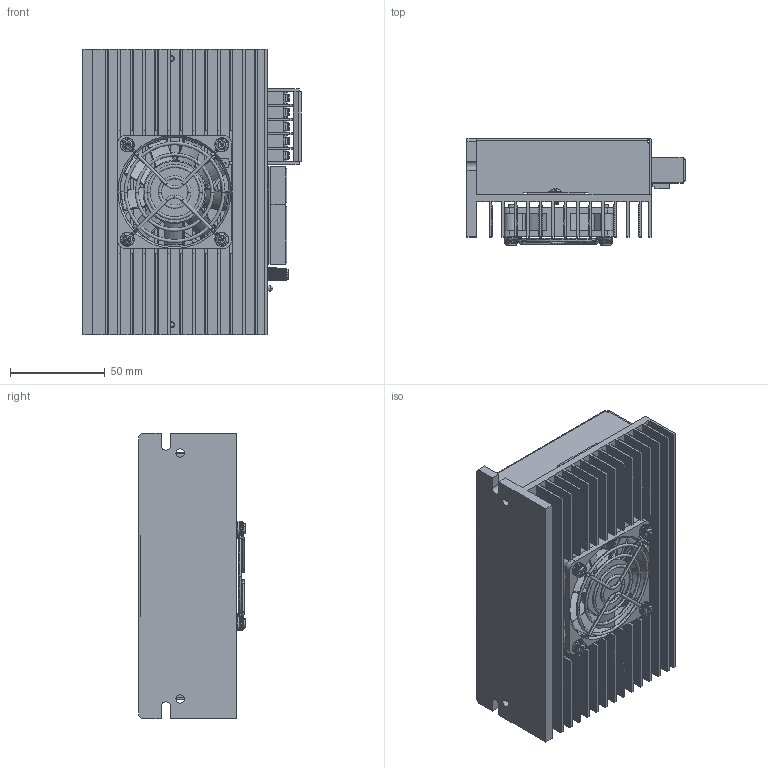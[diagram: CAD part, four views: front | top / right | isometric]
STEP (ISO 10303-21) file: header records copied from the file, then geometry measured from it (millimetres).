
FILE_DESCRIPTION (( 'STEP AP214' ), '1' );
FILE_NAME ('MLD-075-ST 1108 .STEP', '2017-11-08T07:24:11', ( 'HP' ), ( '' ), 'SwSTEP 2.0', 'SolidWorks 2014', '' );
FILE_SCHEMA (( 'AUTOMOTIVE_DESIGN' ));
Length unit declared in the file: millimetre
Products named in the file (25): BLD-750奻裔; 白央件生斥; BLD-750菁釱; С݆; 生斥; MLD-075-ST 1108 ; User Library-fan 60mm x 15mm hf (1); User Library-60mm Fan Guard; 8pin左旦; 5pin左旦; 5pin大電流端子; 芵隴傷赽屳; 埴褒蹟佪; 菜え; 5pin湮萇霜傷赽; 5Pin傷赽釱; 8Pin傷赽; 囀离萇弇ん; 媼憤奪; M3蹟佪; 旦奶永民2pin ; 厙諳; 旦奶永民伊田奈; 唅蛌羲壽; 旦奶永民2pin
Assembly tree (38 placements, depth 3):
  MLD-075-ST 1108 
    BLD-750菁釱
    BLD-750奻裔
    唅蛌羲壽
    厙諳
    M3蹟佪  x2
    媼憤奪
    囀离萇弇ん
    8Pin傷赽
    5Pin傷赽釱
    5pin大電流端子
      5pin湮萇霜傷赽
      菜え  x5
      埴褒蹟佪  x5
      芵隴傷赽屳
    5pin左旦
    8pin左旦
    User Library-60mm Fan Guard
    User Library-fan 60mm x 15mm hf (1)
    白央件生斥  x4
      生斥
      С݆
    旦奶永民2pin 
      旦奶永民2pin
      旦奶永民伊田奈  x2
Bounding box: 115.35 x 56.54 x 151 mm (x, y, z)
Volume: 197489 mm3; surface area: 192759.4 mm2
Topology: 55 solids, 55 shells, 3911 faces, 10826 edges, 7112 vertices
Faces by surface type: cylinder 1820, plane 1688, bspline 253, torus 85, cone 50, sphere 15
Entity records: 123959 total; most frequent: CARTESIAN_POINT 27765, DIRECTION 19169, ORIENTED_EDGE 19044, EDGE_CURVE 9522, AXIS2_PLACEMENT_3D 6885, VERTEX_POINT 6239, VECTOR 5399, LINE 5399
